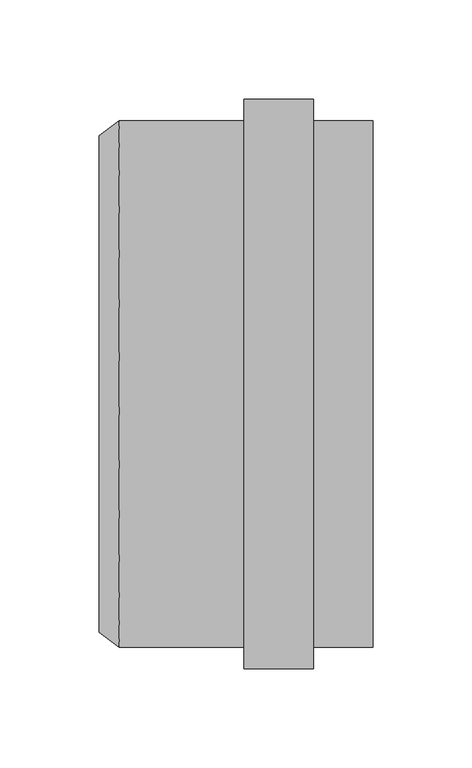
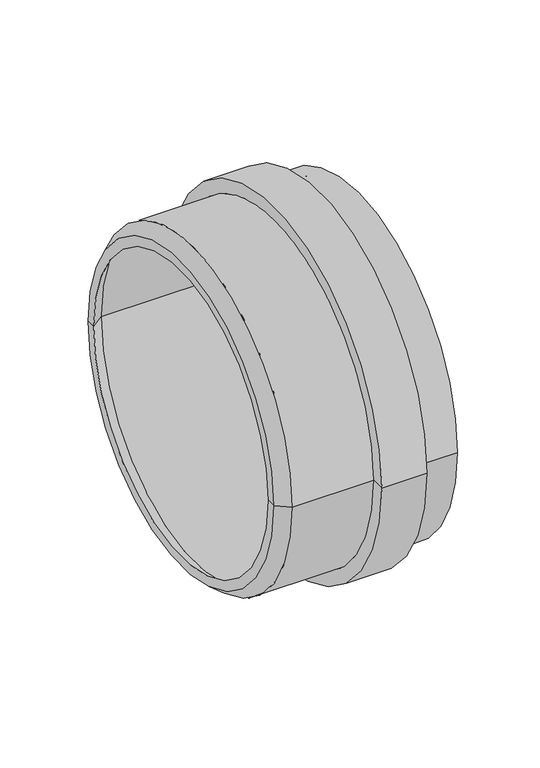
"""IFC4 building model written with IfcOpenShell, lengths in millimetres: pipe fitting geometry, OSMA_KG2000_Hrdlo : Hrdlo."""

from ifc_helpers import new_model, si_unit, frame, origin, place, context, project, spatial, polyline, circle_curve, source, transform, mapped, element, save
from ifc_brep_helpers import plane_surface, cylinder_surface, revolved_surface, advanced_brep


def pipe_fitting_74974c84(model_context):
    return source(origin(), model_context, "Body", "AdvancedBrep", [
        advanced_brep(
        [(68.0, -143.5, 0.0), (68.0, 143.5, 0.0), (103.0, 143.5, 0.0), (103.0, -143.5, 0.0), (68.0, -132.7, 0.0), (68.0, 132.7, 0.0), (5.0, -132.7, 0.0), (5.0, 132.7, 0.0), (-5.0, -125.0, 0.0), (-5.0, 125.0, 0.0), (-5.0, -117.3, 0.0), (-5.0, 117.3, 0.0), (5.0, -125.0, 0.0), (5.0, 125.0, 0.0), (133.0, -125.0, 0.0), (133.0, 125.0, 0.0), (133.0, -132.7, 0.0), (133.0, 132.7, 0.0), (103.0, -132.7, 0.0), (103.0, 132.7, 0.0)],
        [
            (0, 1, circle_curve(frame((68.0, 0.0, 0.0), z_axis=(1.0, 0.0, 0.0), x_axis=(0.0, 1.0, 0.0)), 143.5)),
            (1, 2),
            (2, 3, circle_curve(frame((103.0, 0.0, 0.0), z_axis=(-1.0, 0.0, 0.0), x_axis=(0.0, 1.0, 0.0)), 143.5)),
            (3, 0),
            (1, 0, circle_curve(frame((68.0, 0.0, 0.0), z_axis=(1.0, 0.0, 0.0), x_axis=(0.0, 1.0, 0.0)), 143.5)),
            (3, 2, circle_curve(frame((103.0, 0.0, 0.0), z_axis=(-1.0, 0.0, 0.0), x_axis=(0.0, 1.0, 0.0)), 143.5)),
            (4, 5, circle_curve(frame((68.0, 0.0, 0.0), z_axis=(1.0, 0.0, 0.0), x_axis=(0.0, 1.0, 0.0)), 132.7)),
            (5, 1),
            (0, 4),
            (5, 4, circle_curve(frame((68.0, 0.0, 0.0), z_axis=(1.0, 0.0, 0.0), x_axis=(0.0, 1.0, 0.0)), 132.7)),
            (6, 7, circle_curve(frame((5.0, 0.0, 0.0), z_axis=(1.0, 0.0, 0.0), x_axis=(0.0, 1.0, 0.0)), 132.7)),
            (7, 5),
            (4, 6),
            (7, 6, circle_curve(frame((5.0, 0.0, 0.0), z_axis=(1.0, 0.0, 0.0), x_axis=(0.0, 1.0, 0.0)), 132.7)),
            (8, 9, circle_curve(frame((-5.0, 0.0, 0.0), z_axis=(1.0, 0.0, 0.0), x_axis=(0.0, 1.0, 0.0)), 125.0)),
            (9, 7),
            (6, 8),
            (9, 8, circle_curve(frame((-5.0, 0.0, 0.0), z_axis=(1.0, 0.0, 0.0), x_axis=(0.0, 1.0, 0.0)), 125.0)),
            (10, 11, circle_curve(frame((-5.0, 0.0, 0.0), z_axis=(1.0, 0.0, 0.0), x_axis=(0.0, 1.0, 0.0)), 117.3)),
            (11, 9),
            (8, 10),
            (11, 10, circle_curve(frame((-5.0, 0.0, 0.0), z_axis=(1.0, 0.0, 0.0), x_axis=(0.0, 1.0, 0.0)), 117.3)),
            (12, 13, circle_curve(frame((5.0, 0.0, 0.0), z_axis=(1.0, 0.0, 0.0), x_axis=(0.0, 1.0, 0.0)), 125.0)),
            (13, 11),
            (10, 12),
            (13, 12, circle_curve(frame((5.0, 0.0, 0.0), z_axis=(1.0, 0.0, 0.0), x_axis=(0.0, 1.0, 0.0)), 125.0)),
            (14, 15, circle_curve(frame((133.0, 0.0, 0.0), z_axis=(1.0, 0.0, 0.0), x_axis=(0.0, 1.0, 0.0)), 125.0)),
            (15, 13),
            (12, 14),
            (15, 14, circle_curve(frame((133.0, 0.0, 0.0), z_axis=(1.0, 0.0, 0.0), x_axis=(0.0, 1.0, 0.0)), 125.0)),
            (16, 17, circle_curve(frame((133.0, 0.0, 0.0), z_axis=(1.0, 0.0, 0.0), x_axis=(0.0, 1.0, 0.0)), 132.7)),
            (17, 15),
            (14, 16),
            (17, 16, circle_curve(frame((133.0, 0.0, 0.0), z_axis=(1.0, 0.0, 0.0), x_axis=(0.0, 1.0, 0.0)), 132.7)),
            (18, 19, circle_curve(frame((103.0, 0.0, 0.0), z_axis=(1.0, 0.0, 0.0), x_axis=(0.0, 1.0, 0.0)), 132.7)),
            (19, 17),
            (16, 18),
            (19, 18, circle_curve(frame((103.0, 0.0, 0.0), z_axis=(1.0, 0.0, 0.0), x_axis=(0.0, 1.0, 0.0)), 132.7)),
            (2, 19),
            (18, 3),
        ],
        [
            cylinder_surface(frame((413.497004, 0.0, 0.0), z_axis=(-1.0, 0.0, 0.0), x_axis=(0.0, 1.0, 0.0)), 143.5),
            plane_surface(frame((68.0, 0.0, 0.0), z_axis=(-1.0, 0.0, 0.0), x_axis=(0.0, 1.0, 0.0))),
            cylinder_surface(frame((413.497004, 0.0, 0.0), z_axis=(-1.0, 0.0, 0.0), x_axis=(0.0, 1.0, 0.0)), 132.7),
            revolved_surface(polyline([(5.0, 132.7, 0.0), (-5.0, 125.0, 0.0)]), (413.497004, 0.0, 0.0), (-1.0, 0.0, 0.0)),
            plane_surface(frame((-5.0, 0.0, 0.0), z_axis=(-1.0, 0.0, 0.0), x_axis=(0.0, 1.0, 0.0))),
            revolved_surface(polyline([(-5.0, 117.3, 0.0), (5.0, 125.0, 0.0)]), (413.497004, 0.0, 0.0), (-1.0, 0.0, 0.0)),
            revolved_surface(polyline([(5.0, 125.0, 0.0), (133.0, 125.0, 0.0)]), (413.497004, 0.0, 0.0), (-1.0, 0.0, 0.0)),
            plane_surface(frame((133.0, 0.0, 0.0), z_axis=(1.0, 0.0, 0.0), x_axis=(0.0, 1.0, 0.0))),
            plane_surface(frame((103.0, 0.0, 0.0), z_axis=(1.0, 0.0, 0.0), x_axis=(0.0, 1.0, 0.0))),
        ],
        [
            (0, [[1, 2, 3, 4]]),
            (0, [[5, -4, 6, -2]]),
            (1, [[7, 8, -1, 9]]),
            (1, [[10, -9, -5, -8]]),
            (2, [[11, 12, -7, 13]]),
            (2, [[14, -13, -10, -12]]),
            (3, [[15, 16, -11, 17]]),
            (3, [[18, -17, -14, -16]]),
            (4, [[19, 20, -15, 21]]),
            (4, [[22, -21, -18, -20]]),
            (5, [[23, 24, -19, 25]]),
            (5, [[26, -25, -22, -24]]),
            (6, [[27, 28, -23, 29]]),
            (6, [[30, -29, -26, -28]]),
            (7, [[31, 32, -27, 33]]),
            (7, [[34, -33, -30, -32]]),
            (2, [[35, 36, -31, 37]]),
            (2, [[38, -37, -34, -36]]),
            (8, [[-3, 39, -35, 40]]),
            (8, [[-6, -40, -38, -39]]),
        ],
    ),
    ])


if __name__ == "__main__":
    model = new_model("IFC4")
    model_context = context("Model", 3, world=origin())
    ifc_project = project(units=[si_unit("LENGTHUNIT", "METRE", prefix="MILLI")], contexts=[model_context])
    site = spatial("IfcSite", under=ifc_project)
    building = spatial("IfcBuilding", under=site)
    placement = place(None, origin())
    pipe_fitting_shape = pipe_fitting_74974c84(model_context)
    element("IfcPipeFitting", 1, ObjectType="OSMA_KG2000_Hrdlo : Hrdlo", at=placement, inside=building, context=model_context, shape_type="MappedRepresentation", body=[
        mapped(pipe_fitting_shape, transform((0.0, 0.0, 0.0), x_axis=(1.0, 0.0, 0.0), y_axis=(0.0, 1.0, 0.0), z_axis=(0.0, 0.0, 1.0))),
    ])
    save(model, "model.ifc")
